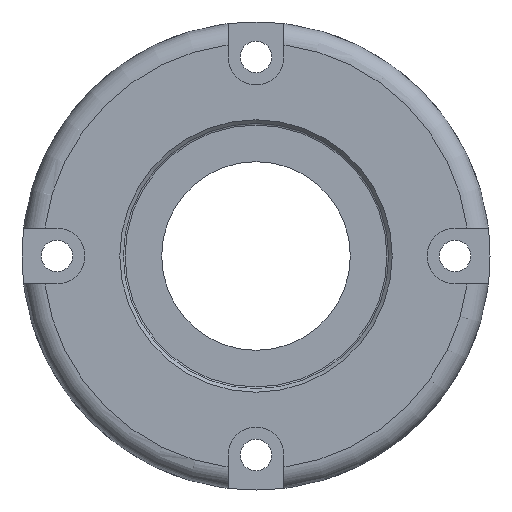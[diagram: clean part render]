
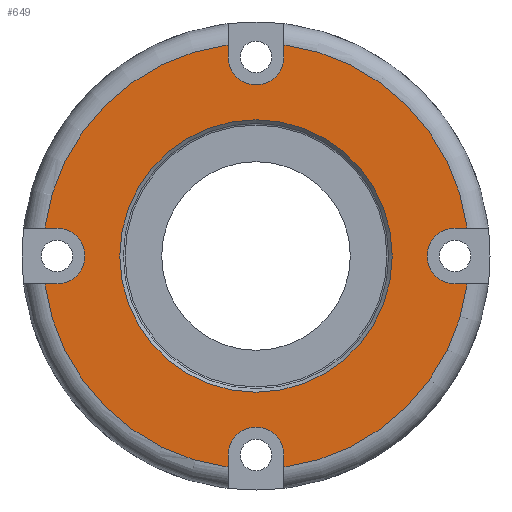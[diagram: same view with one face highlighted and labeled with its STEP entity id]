
A CAD part, left-side view. The second image highlights one B-rep face of the part: STEP entity #649.
In plain terms, the highlighted planar face has unit normal (-1, 0, 0).
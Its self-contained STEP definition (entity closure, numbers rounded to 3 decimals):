
#27=FACE_BOUND('',#198,.T.);
#40=PLANE('',#722);
#59=LINE('',#1035,#101);
#60=LINE('',#1039,#102);
#61=LINE('',#1043,#103);
#62=LINE('',#1047,#104);
#63=LINE('',#1051,#105);
#64=LINE('',#1055,#106);
#65=LINE('',#1059,#107);
#66=LINE('',#1063,#108);
#101=VECTOR('',#833,10.);
#102=VECTOR('',#836,10.);
#103=VECTOR('',#839,10.);
#104=VECTOR('',#842,10.);
#105=VECTOR('',#845,10.);
#106=VECTOR('',#848,10.);
#107=VECTOR('',#851,10.);
#108=VECTOR('',#854,10.);
#158=FACE_OUTER_BOUND('',#197,.T.);
#197=EDGE_LOOP('',(#474,#475,#476,#477,#478,#479,#480,#481,#482,#483,#484,
#485,#486,#487,#488,#489));
#198=EDGE_LOOP('',(#490));
#250=CIRCLE('',#721,19.5);
#251=CIRCLE('',#723,30.5);
#252=CIRCLE('',#724,4.);
#253=CIRCLE('',#725,30.5);
#254=CIRCLE('',#726,4.);
#255=CIRCLE('',#727,30.5);
#256=CIRCLE('',#728,4.);
#257=CIRCLE('',#729,30.5);
#258=CIRCLE('',#730,4.);
#295=VERTEX_POINT('',#1029);
#296=VERTEX_POINT('',#1033);
#297=VERTEX_POINT('',#1034);
#298=VERTEX_POINT('',#1036);
#299=VERTEX_POINT('',#1038);
#300=VERTEX_POINT('',#1040);
#301=VERTEX_POINT('',#1042);
#302=VERTEX_POINT('',#1044);
#303=VERTEX_POINT('',#1046);
#304=VERTEX_POINT('',#1048);
#305=VERTEX_POINT('',#1050);
#306=VERTEX_POINT('',#1052);
#307=VERTEX_POINT('',#1054);
#308=VERTEX_POINT('',#1056);
#309=VERTEX_POINT('',#1058);
#310=VERTEX_POINT('',#1060);
#311=VERTEX_POINT('',#1062);
#363=EDGE_CURVE('',#295,#295,#250,.T.);
#365=EDGE_CURVE('',#296,#297,#59,.T.);
#366=EDGE_CURVE('',#298,#297,#251,.T.);
#367=EDGE_CURVE('',#298,#299,#60,.T.);
#368=EDGE_CURVE('',#299,#300,#252,.T.);
#369=EDGE_CURVE('',#300,#301,#61,.T.);
#370=EDGE_CURVE('',#302,#301,#253,.T.);
#371=EDGE_CURVE('',#302,#303,#62,.T.);
#372=EDGE_CURVE('',#303,#304,#254,.T.);
#373=EDGE_CURVE('',#304,#305,#63,.T.);
#374=EDGE_CURVE('',#306,#305,#255,.T.);
#375=EDGE_CURVE('',#306,#307,#64,.T.);
#376=EDGE_CURVE('',#307,#308,#256,.T.);
#377=EDGE_CURVE('',#308,#309,#65,.T.);
#378=EDGE_CURVE('',#310,#309,#257,.T.);
#379=EDGE_CURVE('',#310,#311,#66,.T.);
#380=EDGE_CURVE('',#311,#296,#258,.T.);
#474=ORIENTED_EDGE('',*,*,#365,.T.);
#475=ORIENTED_EDGE('',*,*,#366,.F.);
#476=ORIENTED_EDGE('',*,*,#367,.T.);
#477=ORIENTED_EDGE('',*,*,#368,.T.);
#478=ORIENTED_EDGE('',*,*,#369,.T.);
#479=ORIENTED_EDGE('',*,*,#370,.F.);
#480=ORIENTED_EDGE('',*,*,#371,.T.);
#481=ORIENTED_EDGE('',*,*,#372,.T.);
#482=ORIENTED_EDGE('',*,*,#373,.T.);
#483=ORIENTED_EDGE('',*,*,#374,.F.);
#484=ORIENTED_EDGE('',*,*,#375,.T.);
#485=ORIENTED_EDGE('',*,*,#376,.T.);
#486=ORIENTED_EDGE('',*,*,#377,.T.);
#487=ORIENTED_EDGE('',*,*,#378,.F.);
#488=ORIENTED_EDGE('',*,*,#379,.T.);
#489=ORIENTED_EDGE('',*,*,#380,.T.);
#490=ORIENTED_EDGE('',*,*,#363,.F.);
#649=ADVANCED_FACE('',(#158,#27),#40,.T.);
#721=AXIS2_PLACEMENT_3D('',#1030,#828,#829);
#722=AXIS2_PLACEMENT_3D('',#1032,#831,#832);
#723=AXIS2_PLACEMENT_3D('',#1037,#834,#835);
#724=AXIS2_PLACEMENT_3D('',#1041,#837,#838);
#725=AXIS2_PLACEMENT_3D('',#1045,#840,#841);
#726=AXIS2_PLACEMENT_3D('',#1049,#843,#844);
#727=AXIS2_PLACEMENT_3D('',#1053,#846,#847);
#728=AXIS2_PLACEMENT_3D('',#1057,#849,#850);
#729=AXIS2_PLACEMENT_3D('',#1061,#852,#853);
#730=AXIS2_PLACEMENT_3D('',#1064,#855,#856);
#828=DIRECTION('center_axis',(-1.,0.,0.));
#829=DIRECTION('ref_axis',(0.,-1.,0.));
#831=DIRECTION('center_axis',(-1.,0.,0.));
#832=DIRECTION('ref_axis',(0.,0.,1.));
#833=DIRECTION('',(0.,0.,-1.));
#834=DIRECTION('center_axis',(1.,0.,0.));
#835=DIRECTION('ref_axis',(0.,-1.,0.));
#836=DIRECTION('',(0.,1.,0.));
#837=DIRECTION('center_axis',(1.,0.,0.));
#838=DIRECTION('ref_axis',(0.,0.,-1.));
#839=DIRECTION('',(0.,-1.,0.));
#840=DIRECTION('center_axis',(1.,0.,0.));
#841=DIRECTION('ref_axis',(0.,-1.,0.));
#842=DIRECTION('',(0.,0.,-1.));
#843=DIRECTION('center_axis',(1.,0.,0.));
#844=DIRECTION('ref_axis',(0.,-1.,0.));
#845=DIRECTION('',(0.,0.,1.));
#846=DIRECTION('center_axis',(1.,0.,0.));
#847=DIRECTION('ref_axis',(0.,-1.,0.));
#848=DIRECTION('',(0.,-1.,0.));
#849=DIRECTION('center_axis',(1.,0.,0.));
#850=DIRECTION('ref_axis',(0.,0.,1.));
#851=DIRECTION('',(0.,1.,0.));
#852=DIRECTION('center_axis',(1.,0.,0.));
#853=DIRECTION('ref_axis',(0.,-1.,0.));
#854=DIRECTION('',(0.,0.,1.));
#855=DIRECTION('center_axis',(1.,0.,0.));
#856=DIRECTION('ref_axis',(0.,1.,0.));
#1029=CARTESIAN_POINT('',(0.,19.5,0.));
#1030=CARTESIAN_POINT('Origin',(0.,0.,0.));
#1032=CARTESIAN_POINT('Origin',(0.,33.5,0.));
#1033=CARTESIAN_POINT('',(0.,-4.,-28.5));
#1034=CARTESIAN_POINT('',(0.,-4.,-30.237));
#1035=CARTESIAN_POINT('',(0.,-4.,-14.25));
#1036=CARTESIAN_POINT('',(0.,-30.237,-4.));
#1037=CARTESIAN_POINT('Origin',(0.,0.,0.));
#1038=CARTESIAN_POINT('',(0.,-28.5,-4.));
#1039=CARTESIAN_POINT('',(0.,0.12,-4.));
#1040=CARTESIAN_POINT('',(0.,-28.5,4.));
#1041=CARTESIAN_POINT('Origin',(0.,-28.5,0.));
#1042=CARTESIAN_POINT('',(0.,-30.237,4.));
#1043=CARTESIAN_POINT('',(0.,2.5,4.));
#1044=CARTESIAN_POINT('',(0.,-4.,30.237));
#1045=CARTESIAN_POINT('Origin',(0.,0.,0.));
#1046=CARTESIAN_POINT('',(0.,-4.,28.5));
#1047=CARTESIAN_POINT('',(0.,-4.,16.63));
#1048=CARTESIAN_POINT('',(0.,4.,28.5));
#1049=CARTESIAN_POINT('Origin',(0.,0.,
28.5));
#1050=CARTESIAN_POINT('',(0.,4.,30.237));
#1051=CARTESIAN_POINT('',(0.,4.,14.25));
#1052=CARTESIAN_POINT('',(0.,30.237,4.));
#1053=CARTESIAN_POINT('Origin',(0.,0.,0.));
#1054=CARTESIAN_POINT('',(0.,28.5,4.));
#1055=CARTESIAN_POINT('',(0.,33.38,4.));
#1056=CARTESIAN_POINT('',(0.,28.5,-4.));
#1057=CARTESIAN_POINT('Origin',(0.,28.5,0.));
#1058=CARTESIAN_POINT('',(0.,30.237,-4.));
#1059=CARTESIAN_POINT('',(0.,31.,-4.));
#1060=CARTESIAN_POINT('',(0.,4.,-30.237));
#1061=CARTESIAN_POINT('Origin',(0.,0.,0.));
#1062=CARTESIAN_POINT('',(0.,4.,-28.5));
#1063=CARTESIAN_POINT('',(0.,4.,-16.63));
#1064=CARTESIAN_POINT('Origin',(0.,0.,
-28.5));
